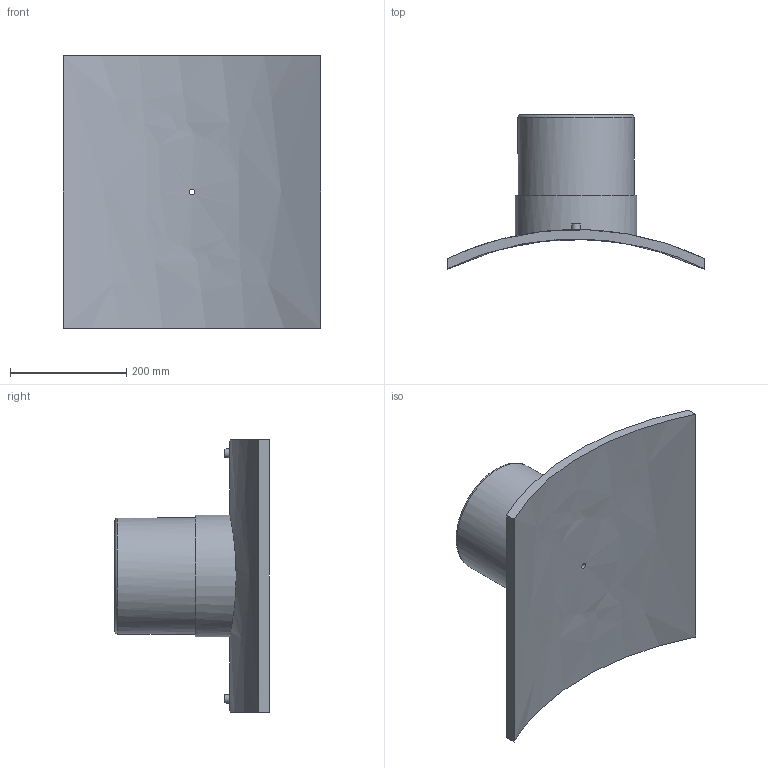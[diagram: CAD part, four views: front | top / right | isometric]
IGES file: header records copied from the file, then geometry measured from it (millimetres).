
Global section: file name: 4958031000200T; native system: Autodesk Inventor 2019; preprocessor: unknown; author: KIM; date: 20240404.114736; units: millimetre
Bounding box: 443 x 265.74 x 470 mm (x, y, z)
Volume: 5946258.8 mm3; surface area: 700907.6 mm2
Topology: 1 solids, 1 shells, 29 faces, 60 edges, 43 vertices
Faces by surface type: bspline 29
